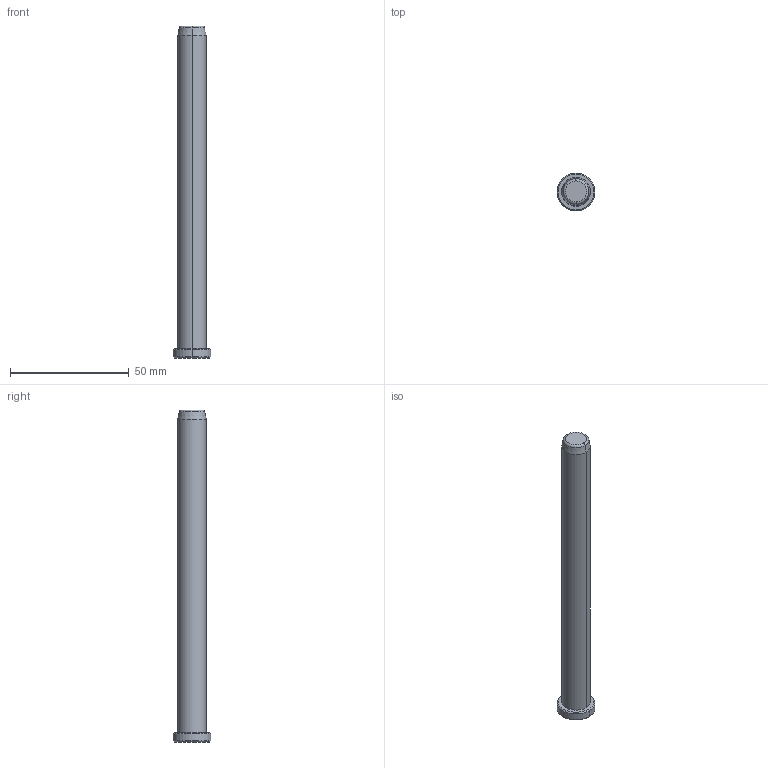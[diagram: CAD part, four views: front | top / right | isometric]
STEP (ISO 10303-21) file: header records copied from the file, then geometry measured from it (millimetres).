
FILE_DESCRIPTION((''),'2;1');
FILE_NAME('B81812140','2018-01-06T',('MANU'),(''),'PRO/ENGINEER BY PARAMETRIC TECHNOLOGY CORPORATION, 2012130','PRO/ENGINEER BY PARAMETRIC TECHNOLOGY CORPORATION, 2012130','');
FILE_SCHEMA(('CONFIG_CONTROL_DESIGN'));
Length unit declared in the file: millimetre
Products named in the file (1): B81812140
Bounding box: 16 x 16 x 140 mm (x, y, z)
Volume: 16117.5 mm3; surface area: 5658.7 mm2
Topology: 1 solids, 1 shells, 15 faces, 28 edges, 16 vertices
Faces by surface type: cone 6, cylinder 4, plane 3, torus 2
Entity records: 414 total; most frequent: DIRECTION 76, CARTESIAN_POINT 59, ORIENTED_EDGE 56, AXIS2_PLACEMENT_3D 33, EDGE_CURVE 28, CIRCLE 18, VERTEX_POINT 16, EDGE_LOOP 16
